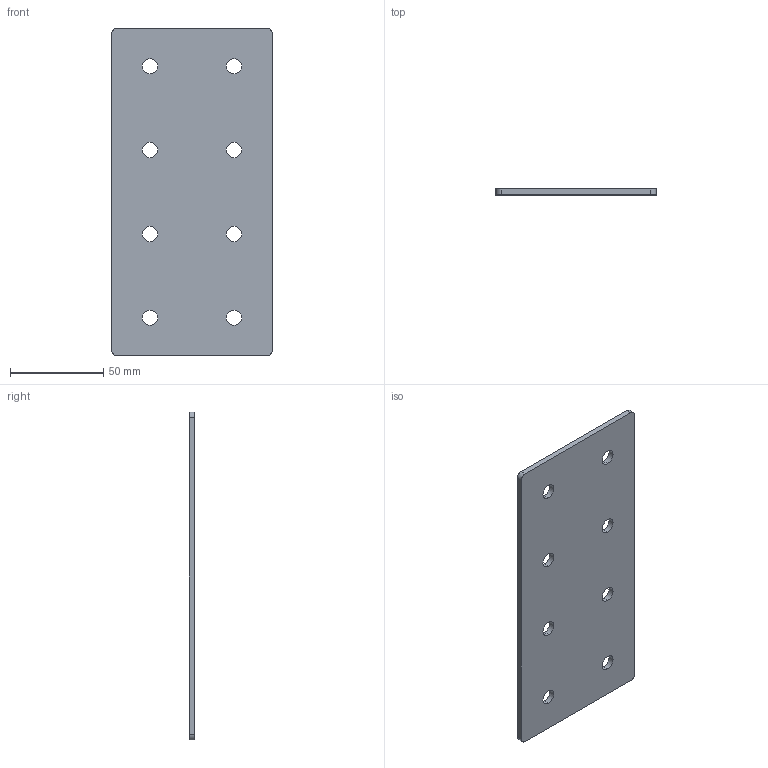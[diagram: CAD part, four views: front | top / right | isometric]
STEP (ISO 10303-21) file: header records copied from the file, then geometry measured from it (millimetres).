
FILE_DESCRIPTION (( 'STEP AP203' ), '1' );
FILE_NAME ('ﾏ-8-45.STEP', '2016-07-23T15:29:57', ( '' ), ( '' ), 'SwSTEP 2.0', 'SolidWorks 2014', '' );
FILE_SCHEMA (( 'CONFIG_CONTROL_DESIGN' ));
Length unit declared in the file: millimetre
Products named in the file (1): ﾏ-8-45
Bounding box: 86 x 3 x 176 mm (x, y, z)
Surface area: 31586.4 mm2 (no closed solid volume)
Topology: 0 solids, 1 shells, 26 faces, 72 edges, 48 vertices
Faces by surface type: cylinder 20, plane 6
Entity records: 965 total; most frequent: DIRECTION 166, CARTESIAN_POINT 147, ORIENTED_EDGE 144, EDGE_CURVE 72, AXIS2_PLACEMENT_3D 67, VERTEX_POINT 48, EDGE_LOOP 42, CIRCLE 40
